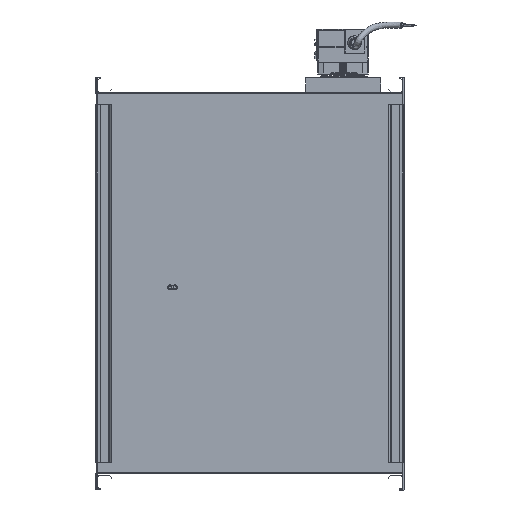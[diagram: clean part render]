
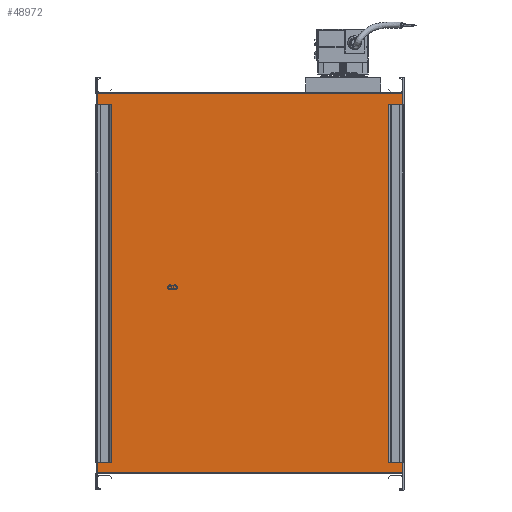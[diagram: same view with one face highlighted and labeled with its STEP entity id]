
A CAD part, front view. The second image highlights one B-rep face of the part: STEP entity #48972.
In plain terms, the highlighted planar face has unit normal (0, -1, 0).
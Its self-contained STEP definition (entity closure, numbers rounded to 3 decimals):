
#957 = VECTOR ( 'NONE', #45418, 1000. ) ;
#4130 = ORIENTED_EDGE ( 'NONE', *, *, #87028, .F. ) ;
#16764 = CARTESIAN_POINT ( 'NONE',  ( -244.423, -85.848, 852. ) ) ;
#29925 = VERTEX_POINT ( 'NONE', #71936 ) ;
#33670 = DIRECTION ( 'NONE',  ( 1., 0., 0. ) ) ;
#36439 = CARTESIAN_POINT ( 'NONE',  ( -244.423, -85.848, 852. ) ) ;
#37848 = CARTESIAN_POINT ( 'NONE',  ( -244.423, -85.848, 852. ) ) ;
#39468 = ORIENTED_EDGE ( 'NONE', *, *, #61070, .F. ) ;
#40757 = CARTESIAN_POINT ( 'NONE',  ( -244.423, -85.848, 1348. ) ) ;
#40764 = CARTESIAN_POINT ( 'NONE',  ( -244.423, -85.848, 852. ) ) ;
#44872 = DIRECTION ( 'NONE',  ( 0., 0., -1. ) ) ;
#45418 = DIRECTION ( 'NONE',  ( 1., 0., 0. ) ) ;
#48026 = VERTEX_POINT ( 'NONE', #37848 ) ;
#48732 = ORIENTED_EDGE ( 'NONE', *, *, #84848, .T. ) ;
#48972 = ADVANCED_FACE ( 'NONE', ( #77867 ), #61888, .T. ) ;
#49667 = VECTOR ( 'NONE', #44872, 1000. ) ;
#49741 = CARTESIAN_POINT ( 'NONE',  ( 155.577, -85.848, 852. ) ) ;
#51399 = CARTESIAN_POINT ( 'NONE',  ( -244.423, -85.848, 1348. ) ) ;
#53738 = DIRECTION ( 'NONE',  ( 0., 0., -1. ) ) ;
#58140 = VECTOR ( 'NONE', #53738, 1000. ) ;
#58633 = ORIENTED_EDGE ( 'NONE', *, *, #73354, .T. ) ;
#60342 = CARTESIAN_POINT ( 'NONE',  ( 155.577, -85.848, 852. ) ) ;
#61070 = EDGE_CURVE ( 'NONE', #83078, #29925, #69853, .T. ) ;
#61888 = PLANE ( 'NONE',  #84233 ) ;
#66950 = LINE ( 'NONE', #36439, #49667 ) ;
#69853 = LINE ( 'NONE', #40757, #90044 ) ;
#71936 = CARTESIAN_POINT ( 'NONE',  ( 155.577, -85.848, 1348. ) ) ;
#73354 = EDGE_CURVE ( 'NONE', #83078, #48026, #66950, .T. ) ;
#77867 = FACE_OUTER_BOUND ( 'NONE', #85718, .T. ) ;
#78336 = DIRECTION ( 'NONE',  ( 0., -1., 0. ) ) ;
#83078 = VERTEX_POINT ( 'NONE', #51399 ) ;
#84233 = AXIS2_PLACEMENT_3D ( 'NONE', #40764, #78336, #91082 ) ;
#84848 = EDGE_CURVE ( 'NONE', #48026, #89120, #88717, .T. ) ;
#85718 = EDGE_LOOP ( 'NONE', ( #4130, #39468, #58633, #48732 ) ) ;
#87028 = EDGE_CURVE ( 'NONE', #29925, #89120, #89547, .T. ) ;
#88717 = LINE ( 'NONE', #16764, #957 ) ;
#89120 = VERTEX_POINT ( 'NONE', #49741 ) ;
#89547 = LINE ( 'NONE', #60342, #58140 ) ;
#90044 = VECTOR ( 'NONE', #33670, 1000. ) ;
#91082 = DIRECTION ( 'NONE',  ( 0., 0., -1. ) ) ;
